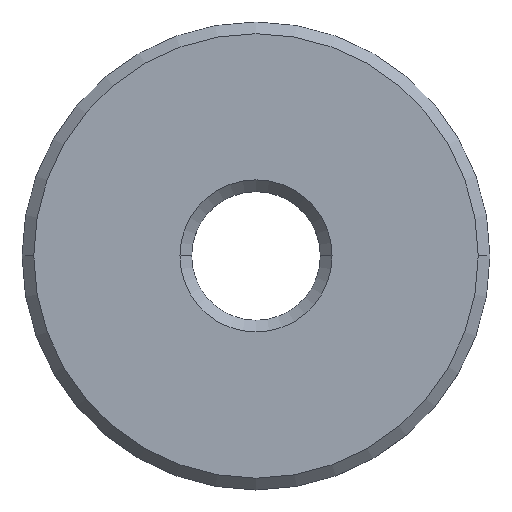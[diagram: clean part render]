
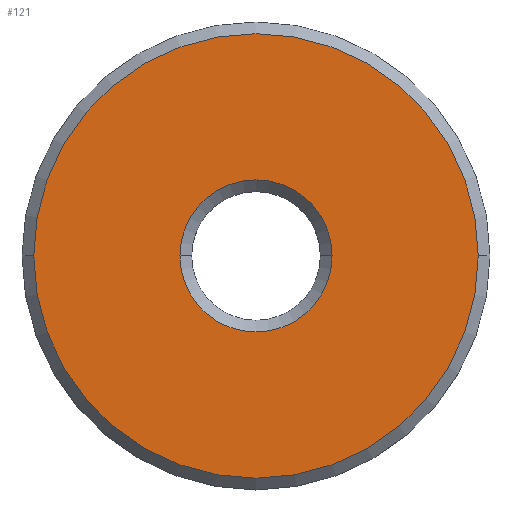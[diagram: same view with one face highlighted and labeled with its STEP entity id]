
A CAD part, top view. The second image highlights one B-rep face of the part: STEP entity #121.
In plain terms, the highlighted planar face has unit normal (0, 0, 1).
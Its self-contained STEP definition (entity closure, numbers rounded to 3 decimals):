
#2 = EDGE_LOOP ( 'NONE', ( #205, #266 ) ) ;
#4 = CIRCLE ( 'NONE', #363, 3.25 ) ;
#7 = AXIS2_PLACEMENT_3D ( 'NONE', #323, #90, #302 ) ;
#52 = ORIENTED_EDGE ( 'NONE', *, *, #196, .T. ) ;
#71 = CIRCLE ( 'NONE', #7, 9.5 ) ;
#76 = DIRECTION ( 'NONE',  ( 1., 0., 0. ) ) ;
#90 = DIRECTION ( 'NONE',  ( 0., 0., 1. ) ) ;
#103 = VERTEX_POINT ( 'NONE', #181 ) ;
#119 = CIRCLE ( 'NONE', #191, 3.25 ) ;
#121 = ADVANCED_FACE ( 'NONE', ( #238, #193 ), #125, .T. ) ;
#125 = PLANE ( 'NONE',  #168 ) ;
#132 = CARTESIAN_POINT ( 'NONE',  ( 0., 0., 1.5 ) ) ;
#136 = DIRECTION ( 'NONE',  ( 0., 0., -1. ) ) ;
#148 = EDGE_CURVE ( 'NONE', #349, #365, #119, .T. ) ;
#151 = CARTESIAN_POINT ( 'NONE',  ( 0., 0., 1.5 ) ) ;
#168 = AXIS2_PLACEMENT_3D ( 'NONE', #208, #306, #231 ) ;
#174 = DIRECTION ( 'NONE',  ( 1., 0., 0. ) ) ;
#181 = CARTESIAN_POINT ( 'NONE',  ( 9.5, 0., 1.5 ) ) ;
#191 = AXIS2_PLACEMENT_3D ( 'NONE', #151, #386, #76 ) ;
#193 = FACE_BOUND ( 'NONE', #2, .T. ) ;
#196 = EDGE_CURVE ( 'NONE', #103, #376, #400, .T. ) ;
#205 = ORIENTED_EDGE ( 'NONE', *, *, #373, .T. ) ;
#208 = CARTESIAN_POINT ( 'NONE',  ( 0., 0., 1.5 ) ) ;
#231 = DIRECTION ( 'NONE',  ( 1., 0., 0. ) ) ;
#238 = FACE_OUTER_BOUND ( 'NONE', #387, .T. ) ;
#257 = DIRECTION ( 'NONE',  ( 1., 0., 0. ) ) ;
#266 = ORIENTED_EDGE ( 'NONE', *, *, #148, .T. ) ;
#283 = DIRECTION ( 'NONE',  ( 0., 0., 1. ) ) ;
#284 = AXIS2_PLACEMENT_3D ( 'NONE', #132, #283, #257 ) ;
#302 = DIRECTION ( 'NONE',  ( 1., 0., 0. ) ) ;
#306 = DIRECTION ( 'NONE',  ( 0., 0., 1. ) ) ;
#309 = EDGE_CURVE ( 'NONE', #376, #103, #71, .T. ) ;
#315 = CARTESIAN_POINT ( 'NONE',  ( 0., 0., 1.5 ) ) ;
#323 = CARTESIAN_POINT ( 'NONE',  ( 0., 0., 1.5 ) ) ;
#347 = CARTESIAN_POINT ( 'NONE',  ( -9.5, 0., 1.5 ) ) ;
#348 = CARTESIAN_POINT ( 'NONE',  ( -3.25, 0., 1.5 ) ) ;
#349 = VERTEX_POINT ( 'NONE', #348 ) ;
#363 = AXIS2_PLACEMENT_3D ( 'NONE', #315, #136, #174 ) ;
#365 = VERTEX_POINT ( 'NONE', #383 ) ;
#373 = EDGE_CURVE ( 'NONE', #365, #349, #4, .T. ) ;
#376 = VERTEX_POINT ( 'NONE', #347 ) ;
#383 = CARTESIAN_POINT ( 'NONE',  ( 3.25, 0., 1.5 ) ) ;
#386 = DIRECTION ( 'NONE',  ( 0., 0., -1. ) ) ;
#387 = EDGE_LOOP ( 'NONE', ( #407, #52 ) ) ;
#400 = CIRCLE ( 'NONE', #284, 9.5 ) ;
#407 = ORIENTED_EDGE ( 'NONE', *, *, #309, .T. ) ;
